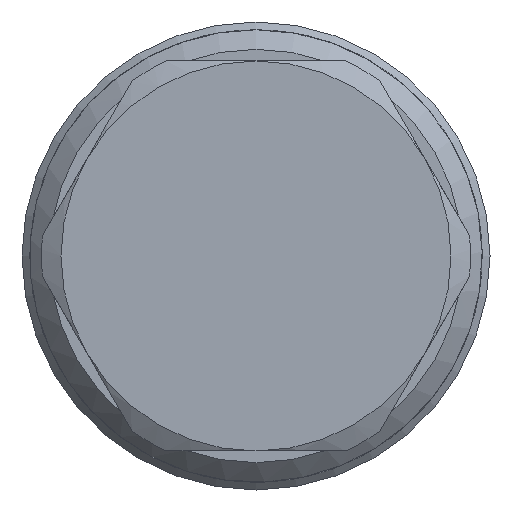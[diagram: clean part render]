
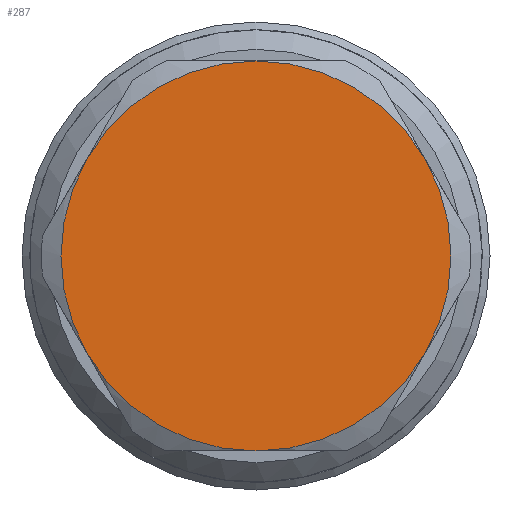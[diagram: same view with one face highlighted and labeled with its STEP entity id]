
A CAD part, left-side view. The second image highlights one B-rep face of the part: STEP entity #287.
In plain terms, the highlighted planar face has unit normal (-1, 0, 0).
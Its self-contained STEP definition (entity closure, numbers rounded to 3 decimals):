
#151=FACE_OUTER_BOUND('',#548,.T.);
#287=ADVANCED_FACE('',(#151),#336,.T.);
#336=PLANE('',#1300);
#548=EDGE_LOOP('',(#752,#753,#754,#755,#756,#757));
#752=ORIENTED_EDGE('',*,*,#1045,.T.);
#753=ORIENTED_EDGE('',*,*,#1046,.T.);
#754=ORIENTED_EDGE('',*,*,#1047,.T.);
#755=ORIENTED_EDGE('',*,*,#1048,.T.);
#756=ORIENTED_EDGE('',*,*,#1049,.T.);
#757=ORIENTED_EDGE('',*,*,#1050,.T.);
#927=VERTEX_POINT('',#1983);
#928=VERTEX_POINT('',#1984);
#929=VERTEX_POINT('',#1986);
#930=VERTEX_POINT('',#1988);
#931=VERTEX_POINT('',#1990);
#932=VERTEX_POINT('',#1992);
#1045=EDGE_CURVE('',#927,#928,#1146,.T.);
#1046=EDGE_CURVE('',#928,#929,#1147,.T.);
#1047=EDGE_CURVE('',#929,#930,#1148,.T.);
#1048=EDGE_CURVE('',#930,#931,#1149,.T.);
#1049=EDGE_CURVE('',#931,#932,#1150,.T.);
#1050=EDGE_CURVE('',#932,#927,#1151,.T.);
#1146=CIRCLE('',#1294,5.);
#1147=CIRCLE('',#1295,5.);
#1148=CIRCLE('',#1296,5.);
#1149=CIRCLE('',#1297,5.);
#1150=CIRCLE('',#1298,5.);
#1151=CIRCLE('',#1299,5.);
#1294=AXIS2_PLACEMENT_3D('',#1982,#1624,#1625);
#1295=AXIS2_PLACEMENT_3D('',#1985,#1626,#1627);
#1296=AXIS2_PLACEMENT_3D('',#1987,#1628,#1629);
#1297=AXIS2_PLACEMENT_3D('',#1989,#1630,#1631);
#1298=AXIS2_PLACEMENT_3D('',#1991,#1632,#1633);
#1299=AXIS2_PLACEMENT_3D('',#1993,#1634,#1635);
#1300=AXIS2_PLACEMENT_3D('',#1994,#1636,#1637);
#1624=DIRECTION('',(-1.,0.,0.));
#1625=DIRECTION('',(0.,-1.,0.));
#1626=DIRECTION('',(-1.,0.,0.));
#1627=DIRECTION('',(0.,-1.,0.));
#1628=DIRECTION('',(-1.,0.,0.));
#1629=DIRECTION('',(0.,-1.,0.));
#1630=DIRECTION('',(-1.,0.,0.));
#1631=DIRECTION('',(0.,-1.,0.));
#1632=DIRECTION('',(-1.,0.,0.));
#1633=DIRECTION('',(0.,-1.,0.));
#1634=DIRECTION('',(-1.,0.,0.));
#1635=DIRECTION('',(0.,-1.,0.));
#1636=DIRECTION('',(-1.,0.,0.));
#1637=DIRECTION('',(0.,1.,0.));
#1982=CARTESIAN_POINT('',(-37.9,0.,0.));
#1983=CARTESIAN_POINT('',(-37.9,-4.33,2.5));
#1984=CARTESIAN_POINT('',(-37.9,0.,5.));
#1985=CARTESIAN_POINT('',(-37.9,0.,0.));
#1986=CARTESIAN_POINT('',(-37.9,4.33,2.5));
#1987=CARTESIAN_POINT('',(-37.9,0.,0.));
#1988=CARTESIAN_POINT('',(-37.9,4.33,-2.5));
#1989=CARTESIAN_POINT('',(-37.9,0.,0.));
#1990=CARTESIAN_POINT('',(-37.9,0.,-5.));
#1991=CARTESIAN_POINT('',(-37.9,0.,0.));
#1992=CARTESIAN_POINT('',(-37.9,-4.33,-2.5));
#1993=CARTESIAN_POINT('',(-37.9,0.,0.));
#1994=CARTESIAN_POINT('',(-37.9,0.,0.));
